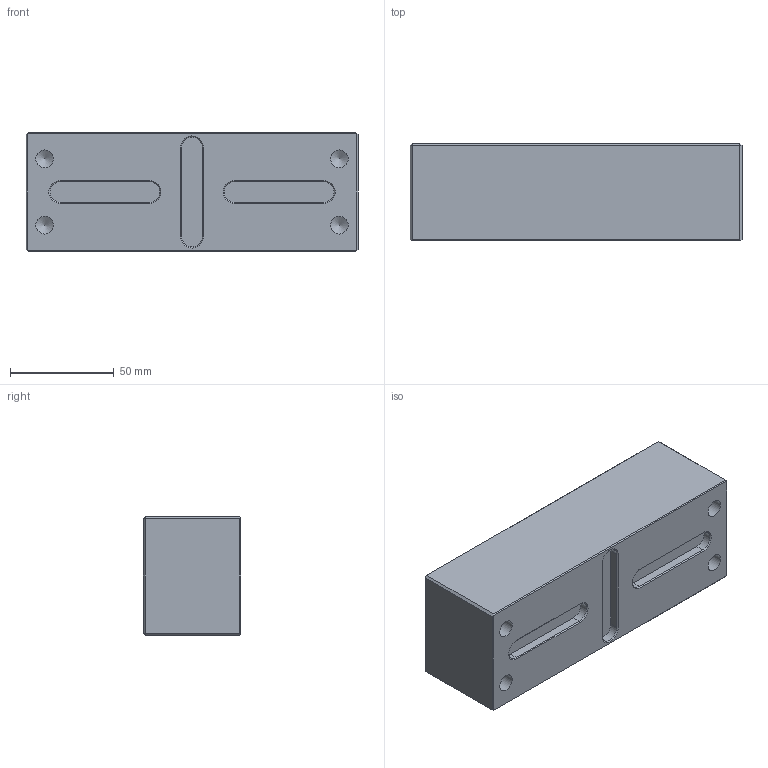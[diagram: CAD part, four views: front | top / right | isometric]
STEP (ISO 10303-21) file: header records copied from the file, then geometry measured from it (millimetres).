
FILE_DESCRIPTION (( 'STEP AP214' ), '1' );
FILE_NAME ('49258.STEP', '2020-03-30T08:39:33', ( '' ), ( '' ), 'SwSTEP 2.0', 'SolidWorks 2019', '' );
FILE_SCHEMA (( 'AUTOMOTIVE_DESIGN' ));
Length unit declared in the file: millimetre
Products named in the file (1): 49258
Bounding box: 160 x 47 x 57 mm (x, y, z)
Volume: 417770.6 mm3; surface area: 41267.3 mm2
Topology: 1 solids, 1 shells, 57 faces, 124 edges, 72 vertices
Faces by surface type: plane 37, cylinder 10, cone 10
Full cylindrical faces by diameter (mm): 8.5 x4
Entity records: 1510 total; most frequent: DIRECTION 254, CARTESIAN_POINT 238, ORIENTED_EDGE 224, EDGE_CURVE 112, VECTOR 86, LINE 86, AXIS2_PLACEMENT_3D 84, EDGE_LOOP 68
